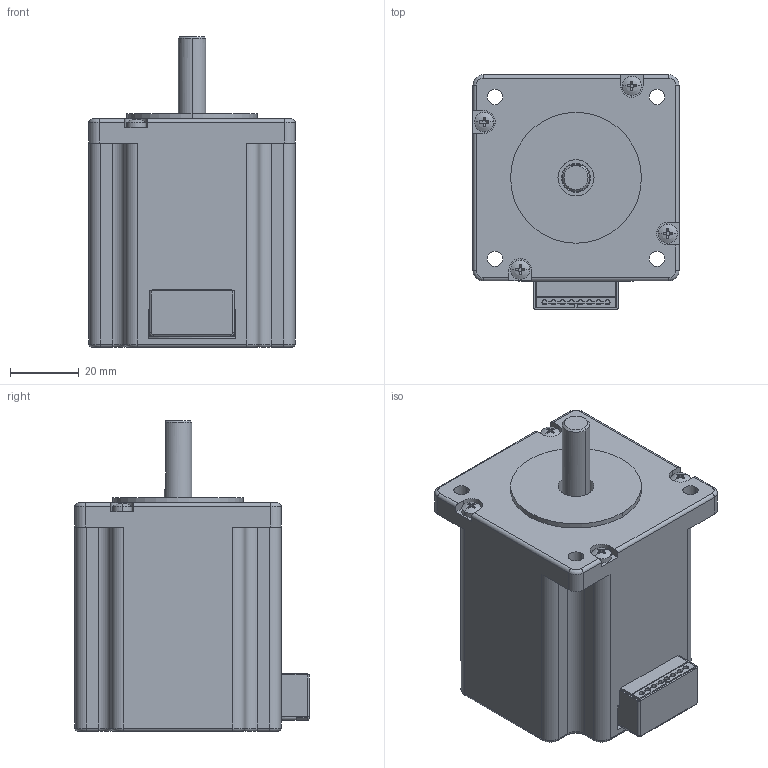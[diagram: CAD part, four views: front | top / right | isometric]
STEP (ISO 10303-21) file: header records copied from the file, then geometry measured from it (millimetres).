
FILE_DESCRIPTION((''),'2;1');
FILE_NAME('3_1_01_060_0014_SW0001','2020-11-27T17:20:39',('guhaibo'),(''),'CREO PARAMETRIC BY PTC INC, 2017110','CREO PARAMETRIC BY PTC INC, 2017110','');
FILE_SCHEMA(('CONFIG_CONTROL_DESIGN'));
Products named in the file (1): 3_1_01_060_0014_SW0001
Bounding box: 60 x 68.15 x 90.5 mm (x, y, z)
Volume: 120119.8 mm3; surface area: 80826 mm2
Topology: 2 solids, 3 shells, 2513 faces, 7500 edges, 4824 vertices
Faces by surface type: plane 1719, cylinder 720, torus 46, bspline 16, sphere 8, cone 4
Entity records: 86433 total; most frequent: CARTESIAN_POINT 16930, ORIENTED_EDGE 15000, DIRECTION 14442, EDGE_CURVE 7500, VECTOR 5400, LINE 5400, VERTEX_POINT 4824, AXIS2_PLACEMENT_3D 4521
